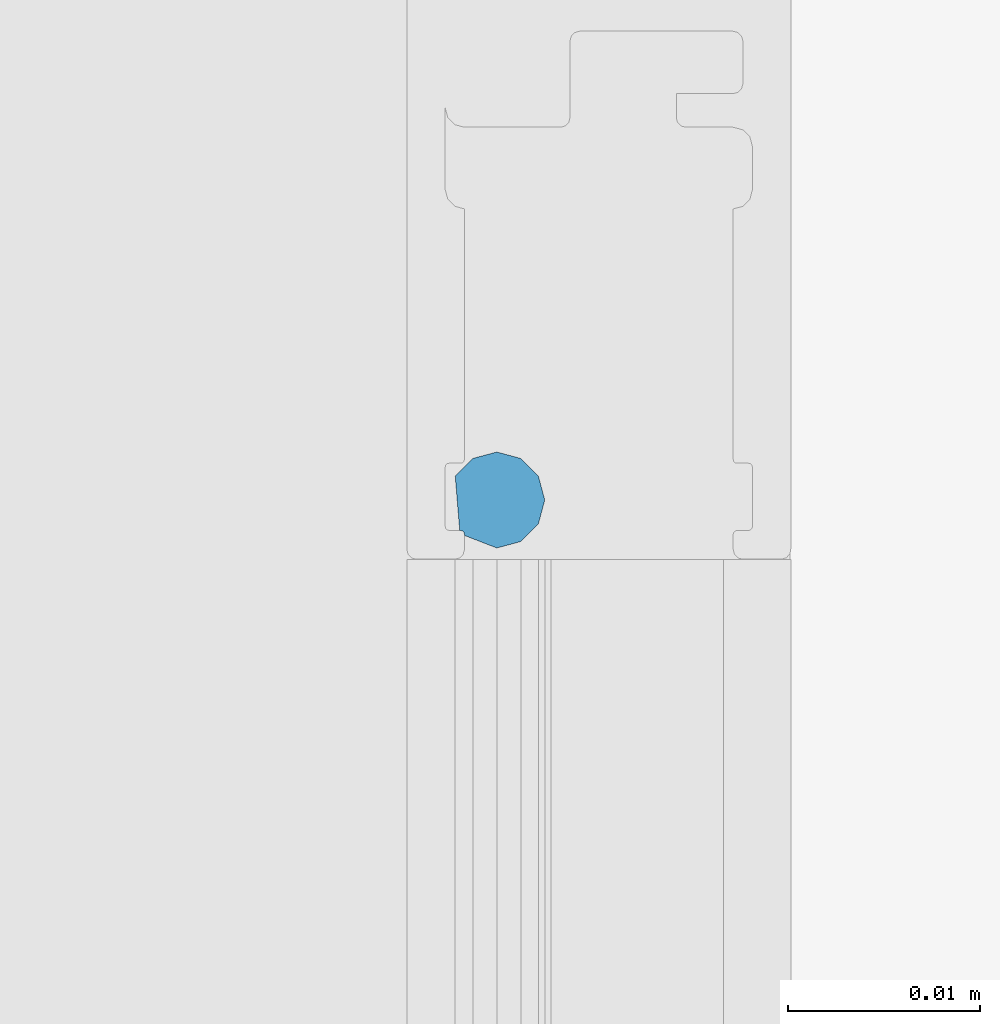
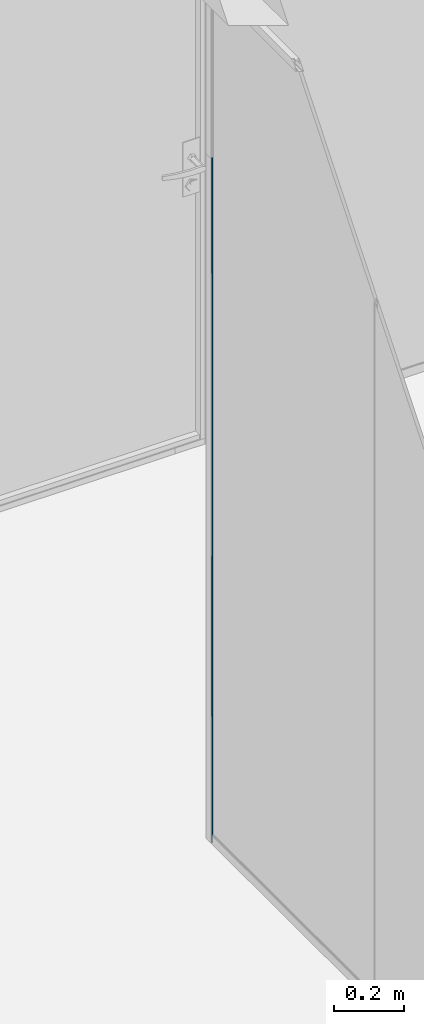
# One storey, part 53 of 387: 1 building element part, 2 elements without a shape of their own.
"""IFC2X3 building model written with IfcOpenShell, lengths in millimetres."""

from ifc_helpers import new_model, entity, si_unit, converted_unit, derived_unit, money_unit, direction, frame, origin_with_axes, place, context, subcontext, project, spatial, faceted_brep, source, transform, mapped, material, type_object, element, aggregate, save


model = new_model("IFC2X3")

# Units and contexts
model_context = context("Model", 3, precision=0.01, world=origin_with_axes(), true_north=direction((0.0, 1.0)))
body_context = subcontext(model_context, "Body", "Model", "MODEL_VIEW")
ifc_project = project(units=[si_unit("LENGTHUNIT", "METRE", prefix="MILLI"), si_unit("AREAUNIT", "SQUARE_METRE"), si_unit("VOLUMEUNIT", "CUBIC_METRE"), converted_unit("PLANEANGLEUNIT", "DEGREE", entity("IfcPlaneAngleMeasure", 0.0174532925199), si_unit("PLANEANGLEUNIT", "RADIAN"), dimensions=[0, 0, 0, 0, 0, 0, 0]), si_unit("SOLIDANGLEUNIT", "STERADIAN"), money_unit("EUR"), converted_unit("TIMEUNIT", "Year", entity("IfcTimeMeasure", 31556926.0), si_unit("TIMEUNIT", "SECOND"), dimensions=[0, 0, 1, 0, 0, 0, 0]), si_unit("MASSUNIT", "GRAM", prefix="KILO"), si_unit("THERMODYNAMICTEMPERATUREUNIT", "DEGREE_CELSIUS"), si_unit("LUMINOUSINTENSITYUNIT", "LUMEN"), si_unit("ENERGYUNIT", "JOULE", prefix="MEGA"), derived_unit("THERMALCONDUCTANCEUNIT", [(si_unit("POWERUNIT", "WATT"), 1), (si_unit("LENGTHUNIT", "METRE"), -1), (si_unit("THERMODYNAMICTEMPERATUREUNIT", "KELVIN"), -1)]), derived_unit("SPECIFICHEATCAPACITYUNIT", [(si_unit("ENERGYUNIT", "JOULE"), 1), (si_unit("MASSUNIT", "GRAM", prefix="KILO"), -1), (si_unit("THERMODYNAMICTEMPERATUREUNIT", "KELVIN"), -1)]), derived_unit("MASSDENSITYUNIT", [(si_unit("MASSUNIT", "GRAM", prefix="KILO"), 1), (si_unit("VOLUMEUNIT", "CUBIC_METRE"), -1)])], contexts=[model_context])

# Site, building, storey
site_placement = place(None, origin_with_axes())
site = spatial("IfcSite", under=ifc_project, at=site_placement, Name="Puškini 31, Narva", CompositionType="ELEMENT")
building_placement = place(site_placement, origin_with_axes())
building = spatial("IfcBuilding", under=site, at=building_placement, Name="Narva Riigigümnaasium", CompositionType="ELEMENT")
storey_placement = place(building_placement, frame((0.0, 0.0, 2640.0), z_axis=(0.0, 0.0, 1.0), x_axis=(1.0, 0.0, 0.0)))
storey = spatial("IfcBuildingStorey", under=building, at=storey_placement, Name="2.korrus +2.64", CompositionType="ELEMENT", Elevation=2640.0)

# Curtain wall, member, building element part
curtain_wall_type = type_object("IfcCurtainWallType", Name="Curtain Wall Type", PredefinedType="NOTDEFINED")
curtain_wall_placement = place(storey_placement, frame((28389.9972784, 170114.499914, -5.2224053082e-05), z_axis=(0.0, 0.0, 1.0), x_axis=(1.0, 0.0, 0.0)))
curtain_wall = element("IfcCurtainWall", 1, at=curtain_wall_placement, inside=storey, type_object=curtain_wall_type, Name="G-SKLF-15.2")
member_type = type_object("IfcMemberType", Name="Boundary Frame 30 x 10", PredefinedType="MULLION")
member_placement = place(curtain_wall_placement, frame((4.30731006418e-08, 1615.50017198, 0.0), z_axis=(0.0, -6.81473233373e-09, 1.0), x_axis=(0.0, -1.0, -6.81473233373e-09)))
member = element("IfcMember", 2, at=member_placement, type_object=member_type, Name="G-SKLF-98-raam", ObjectType="MULLION")
aggregate(curtain_wall, [member])
ifc_material = material(Name="Membraan - Veekindel")
shared_shape = source(origin_with_axes(), body_context, "Body", "Brep", [
    faceted_brep([(-28.5, 7.24760028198, -4.10349964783e-07), (-28.5, 7.24760028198, 2400.00005222), (-25.6641727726, 7.48000965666, 2400.00005222), (-25.6641727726, 7.48000965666, -4.10349964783e-07), (-28.5, 7.19999999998, -4.10349964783e-07), (-28.5, 7.19999999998, 2400.00005222), (-28.5267949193, 7.09999999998, 2400.00005222), (-28.6, 7.02679491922, 2400.00005222), (-28.7, 6.99999999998, 2400.00005222), (-28.7609519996, 6.99999999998, 2400.00005222), (-29.4141727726, 5.31494614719, 2400.00005222), (-29.079236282, 4.06494614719, 2400.00005222), (-28.1641727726, 3.14988263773, 2400.00005222), (-26.9141727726, 2.81494614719, 2400.00005222), (-25.6641727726, 3.14988263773, 2400.00005222), (-24.7491092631, 4.06494614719, 2400.00005222), (-24.4141727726, 5.31494614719, 2400.00005222), (-24.7491092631, 6.56494614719, 2400.00005222), (-24.7491092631, 6.56494614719, -4.10349964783e-07), (-24.4141727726, 5.31494614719, -4.10349964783e-07), (-24.7491092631, 4.06494614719, -4.10349964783e-07), (-25.6641727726, 3.14988263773, -4.10349964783e-07), (-26.9141727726, 2.81494614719, -4.10349964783e-07), (-28.1641727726, 3.14988263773, -4.10349964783e-07), (-29.079236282, 4.06494614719, -4.10349964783e-07), (-29.4141727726, 5.31494614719, -4.10349964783e-07), (-28.7609519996, 6.99999999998, -4.10349964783e-07), (-28.7, 6.99999999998, -4.10349964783e-07), (-28.6, 7.02679491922, -4.10349964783e-07), (-28.5267949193, 7.09999999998, -4.10349964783e-07)], [[[0, 1, 2, 3]], [[4, 5, 1, 0]], [[1, 5, 6, 7, 8, 9, 10, 11, 12, 13, 14, 15, 16, 17, 2]], [[3, 2, 17, 18]], [[0, 3, 18, 19, 20, 21, 22, 23, 24, 25, 26, 27, 28, 29, 4]], [[29, 6, 5, 4]], [[28, 7, 6, 29]], [[27, 8, 7, 28]], [[26, 9, 8, 27]], [[25, 10, 9, 26]], [[24, 11, 10, 25]], [[23, 12, 11, 24]], [[22, 13, 12, 23]], [[21, 14, 13, 22]], [[20, 15, 14, 21]], [[19, 16, 15, 20]], [[18, 17, 16, 19]]]),
])
building_element_part_placement = place(member_placement, origin_with_axes())
building_element_part = element("IfcBuildingElementPart", 3, at=building_element_part_placement, material=ifc_material, Name="Membraan - Veekindel", context=body_context, shape_type="MappedRepresentation", body=[
    mapped(shared_shape, transform((0.0, 0.0, 0.0), x_axis=(-1.0, 0.0, -6.81473233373e-09), y_axis=(0.0, -1.0, 0.0), z_axis=(-6.81473233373e-09, 0.0, 1.0))),
])
aggregate(member, [building_element_part])

save(model, "model.ifc")
